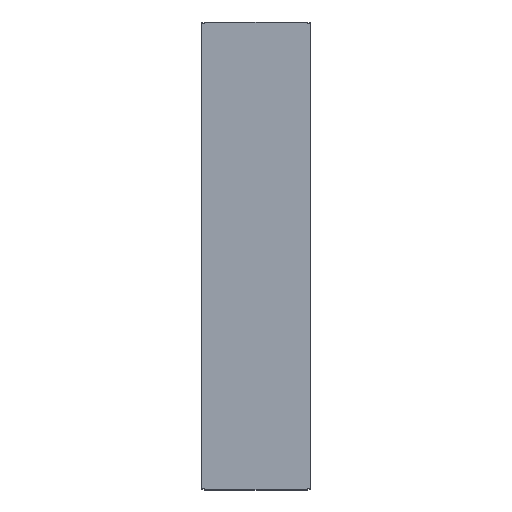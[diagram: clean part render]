
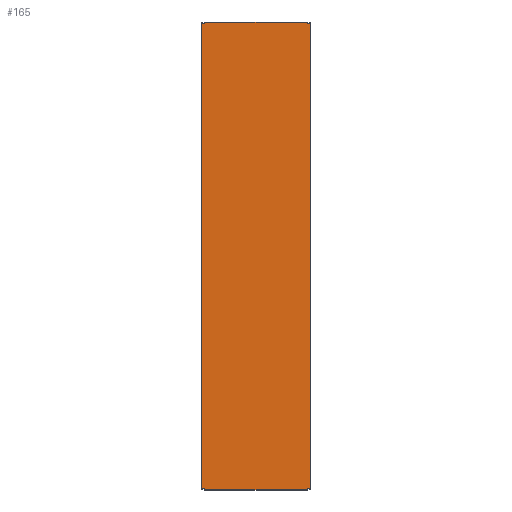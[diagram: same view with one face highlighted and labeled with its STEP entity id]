
A CAD part, top view. The second image highlights one B-rep face of the part: STEP entity #165.
In plain terms, the highlighted planar face has unit normal (0, 0, 1) as drawn and (0, 0, -1) by its records, which use the part's own axes.
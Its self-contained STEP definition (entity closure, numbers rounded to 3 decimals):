
#165 = ADVANCED_FACE( '', ( #318 ), #319, .F. );
#318 = FACE_OUTER_BOUND( '', #458, .T. );
#319 = PLANE( '', #459 );
#458 = EDGE_LOOP( '', ( #830, #831, #832, #833, #834, #835, #836, #837, #838, #839, #840, #841 ) );
#459 = AXIS2_PLACEMENT_3D( '', #842, #843, #844 );
#830 = ORIENTED_EDGE( '', *, *, #984, .T. );
#831 = ORIENTED_EDGE( '', *, *, #912, .F. );
#832 = ORIENTED_EDGE( '', *, *, #975, .T. );
#833 = ORIENTED_EDGE( '', *, *, #954, .T. );
#834 = ORIENTED_EDGE( '', *, *, #1022, .T. );
#835 = ORIENTED_EDGE( '', *, *, #1033, .F. );
#836 = ORIENTED_EDGE( '', *, *, #1002, .T. );
#837 = ORIENTED_EDGE( '', *, *, #941, .T. );
#838 = ORIENTED_EDGE( '', *, *, #1008, .F. );
#839 = ORIENTED_EDGE( '', *, *, #1037, .F. );
#840 = ORIENTED_EDGE( '', *, *, #1014, .T. );
#841 = ORIENTED_EDGE( '', *, *, #988, .T. );
#842 = CARTESIAN_POINT( '', ( 197., 847., 0. ) );
#843 = DIRECTION( '', ( 0., 0., 1. ) );
#844 = DIRECTION( '', ( 1., 0., 0. ) );
#912 = EDGE_CURVE( '', #1098, #1090, #1100, .T. );
#941 = EDGE_CURVE( '', #1148, #1149, #1150, .T. );
#954 = EDGE_CURVE( '', #1172, #1170, #1173, .T. );
#975 = EDGE_CURVE( '', #1098, #1172, #1201, .T. );
#984 = EDGE_CURVE( '', #1215, #1090, #1216, .T. );
#988 = EDGE_CURVE( '', #1220, #1215, #1221, .T. );
#1002 = EDGE_CURVE( '', #1238, #1148, #1239, .T. );
#1008 = EDGE_CURVE( '', #1245, #1149, #1247, .T. );
#1014 = EDGE_CURVE( '', #1253, #1220, #1254, .T. );
#1022 = EDGE_CURVE( '', #1170, #1262, #1264, .T. );
#1033 = EDGE_CURVE( '', #1238, #1262, #1275, .T. );
#1037 = EDGE_CURVE( '', #1253, #1245, #1279, .T. );
#1090 = VERTEX_POINT( '', #1353 );
#1098 = VERTEX_POINT( '', #1365 );
#1100 = LINE( '', #1368, #1369 );
#1148 = VERTEX_POINT( '', #1438 );
#1149 = VERTEX_POINT( '', #1439 );
#1150 = LINE( '', #1440, #1441 );
#1170 = VERTEX_POINT( '', #1470 );
#1172 = VERTEX_POINT( '', #1473 );
#1173 = LINE( '', #1474, #1475 );
#1201 = LINE( '', #1518, #1519 );
#1215 = VERTEX_POINT( '', #1539 );
#1216 = LINE( '', #1540, #1541 );
#1220 = VERTEX_POINT( '', #1547 );
#1221 = LINE( '', #1548, #1549 );
#1238 = VERTEX_POINT( '', #1577 );
#1239 = LINE( '', #1578, #1579 );
#1245 = VERTEX_POINT( '', #1588 );
#1247 = LINE( '', #1591, #1592 );
#1253 = VERTEX_POINT( '', #1600 );
#1254 = LINE( '', #1601, #1602 );
#1262 = VERTEX_POINT( '', #1614 );
#1264 = LINE( '', #1617, #1618 );
#1275 = LINE( '', #1633, #1634 );
#1279 = LINE( '', #1639, #1640 );
#1353 = CARTESIAN_POINT( '', ( 185., -843., 0. ) );
#1365 = CARTESIAN_POINT( '', ( 185., -847., 0. ) );
#1368 = CARTESIAN_POINT( '', ( 185., -847., 0. ) );
#1369 = VECTOR( '', #1672, 1000. );
#1438 = CARTESIAN_POINT( '', ( -185., 843., 0. ) );
#1439 = CARTESIAN_POINT( '', ( -185., 847., 0. ) );
#1440 = CARTESIAN_POINT( '', ( -185., -847., 0. ) );
#1441 = VECTOR( '', #1694, 1000. );
#1470 = CARTESIAN_POINT( '', ( -185., -843., 0. ) );
#1473 = CARTESIAN_POINT( '', ( -185., -847., 0. ) );
#1474 = CARTESIAN_POINT( '', ( -185., -847., 0. ) );
#1475 = VECTOR( '', #1705, 1000. );
#1518 = CARTESIAN_POINT( '', ( 185., -847., 0. ) );
#1519 = VECTOR( '', #1721, 1000. );
#1539 = CARTESIAN_POINT( '', ( 197., -843., 0. ) );
#1540 = CARTESIAN_POINT( '', ( 197., -843., 0. ) );
#1541 = VECTOR( '', #1728, 1000. );
#1547 = CARTESIAN_POINT( '', ( 197., 843., 0. ) );
#1548 = CARTESIAN_POINT( '', ( 197., 847., 0. ) );
#1549 = VECTOR( '', #1731, 1000. );
#1577 = CARTESIAN_POINT( '', ( -197., 843., 0. ) );
#1578 = CARTESIAN_POINT( '', ( 197., 843., 0. ) );
#1579 = VECTOR( '', #1743, 1000. );
#1588 = CARTESIAN_POINT( '', ( 185., 847., 0. ) );
#1591 = CARTESIAN_POINT( '', ( 185., 847., 0. ) );
#1592 = VECTOR( '', #1748, 1000. );
#1600 = CARTESIAN_POINT( '', ( 185., 843., 0. ) );
#1601 = CARTESIAN_POINT( '', ( 197., 843., 0. ) );
#1602 = VECTOR( '', #1751, 1000. );
#1614 = CARTESIAN_POINT( '', ( -197., -843., 0. ) );
#1617 = CARTESIAN_POINT( '', ( 197., -843., 0. ) );
#1618 = VECTOR( '', #1757, 1000. );
#1633 = CARTESIAN_POINT( '', ( -197., 847., 0. ) );
#1634 = VECTOR( '', #1762, 1000. );
#1639 = CARTESIAN_POINT( '', ( 185., -847., 0. ) );
#1640 = VECTOR( '', #1764, 1000. );
#1672 = DIRECTION( '', ( 0., 1., 0. ) );
#1694 = DIRECTION( '', ( 0., 1., 0. ) );
#1705 = DIRECTION( '', ( 0., 1., 0. ) );
#1721 = DIRECTION( '', ( -1., 0., 0. ) );
#1728 = DIRECTION( '', ( -1., 0., 0. ) );
#1731 = DIRECTION( '', ( 0., -1., 0. ) );
#1743 = DIRECTION( '', ( 1., 0., 0. ) );
#1748 = DIRECTION( '', ( -1., 0., 0. ) );
#1751 = DIRECTION( '', ( 1., 0., 0. ) );
#1757 = DIRECTION( '', ( -1., 0., 0. ) );
#1762 = DIRECTION( '', ( 0., -1., 0. ) );
#1764 = DIRECTION( '', ( 0., 1., 0. ) );
